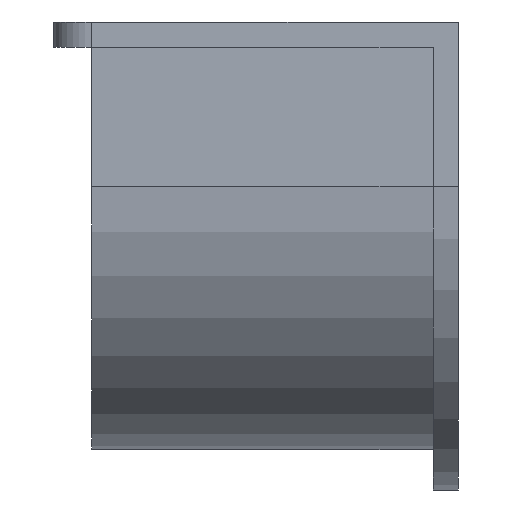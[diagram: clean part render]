
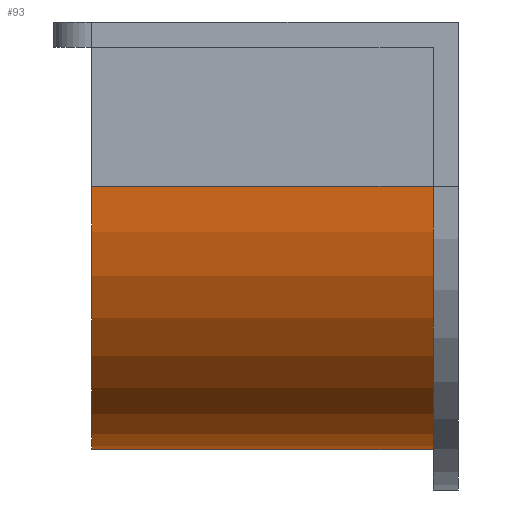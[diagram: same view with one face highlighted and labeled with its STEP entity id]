
A CAD part, left-side view. The second image highlights one B-rep face of the part: STEP entity #93.
In plain terms, the highlighted cylindrical face has radius 10.4 mm (diameter 20.8 mm), a partial arc.
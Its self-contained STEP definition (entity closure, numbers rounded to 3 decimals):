
#93 = ADVANCED_FACE( '', ( #136 ), #137, .T. );
#136 = FACE_OUTER_BOUND( '', #184, .T. );
#137 = CYLINDRICAL_SURFACE( '', #185, 10.4 );
#184 = EDGE_LOOP( '', ( #350, #351, #352, #353 ) );
#185 = AXIS2_PLACEMENT_3D( '', #354, #355, #356 );
#350 = ORIENTED_EDGE( '', *, *, #451, .T. );
#351 = ORIENTED_EDGE( '', *, *, #460, .T. );
#352 = ORIENTED_EDGE( '', *, *, #461, .T. );
#353 = ORIENTED_EDGE( '', *, *, #457, .F. );
#354 = CARTESIAN_POINT( '', ( 12., 0., -6.5 ) );
#355 = DIRECTION( '', ( 0., -1., 0. ) );
#356 = DIRECTION( '', ( 0., 0., -1. ) );
#451 = EDGE_CURVE( '', #554, #552, #555, .T. );
#457 = EDGE_CURVE( '', #554, #563, #564, .T. );
#460 = EDGE_CURVE( '', #552, #568, #569, .T. );
#461 = EDGE_CURVE( '', #568, #563, #570, .T. );
#552 = VERTEX_POINT( '', #700 );
#554 = VERTEX_POINT( '', #703 );
#555 = CIRCLE( '', #704, 10.4 );
#563 = VERTEX_POINT( '', #716 );
#564 = LINE( '', #717, #718 );
#568 = VERTEX_POINT( '', #724 );
#569 = LINE( '', #725, #726 );
#570 = CIRCLE( '', #727, 10.4 );
#700 = CARTESIAN_POINT( '', ( 1.6, 1., -6.5 ) );
#703 = CARTESIAN_POINT( '', ( 12., 1., -16.9 ) );
#704 = AXIS2_PLACEMENT_3D( '', #811, #812, #813 );
#716 = CARTESIAN_POINT( '', ( 12., 14.5, -16.9 ) );
#717 = CARTESIAN_POINT( '', ( 12., 0., -16.9 ) );
#718 = VECTOR( '', #821, 1. );
#724 = CARTESIAN_POINT( '', ( 1.6, 14.5, -6.5 ) );
#725 = CARTESIAN_POINT( '', ( 1.6, 0., -6.5 ) );
#726 = VECTOR( '', #824, 1. );
#727 = AXIS2_PLACEMENT_3D( '', #825, #826, #827 );
#811 = CARTESIAN_POINT( '', ( 12., 1., -6.5 ) );
#812 = DIRECTION( '', ( 0., 1., 0. ) );
#813 = DIRECTION( '', ( 0., 0., -1. ) );
#821 = DIRECTION( '', ( 0., 1., 0. ) );
#824 = DIRECTION( '', ( 0., 1., 0. ) );
#825 = CARTESIAN_POINT( '', ( 12., 14.5, -6.5 ) );
#826 = DIRECTION( '', ( 0., -1., 0. ) );
#827 = DIRECTION( '', ( 0., 0., -1. ) );
